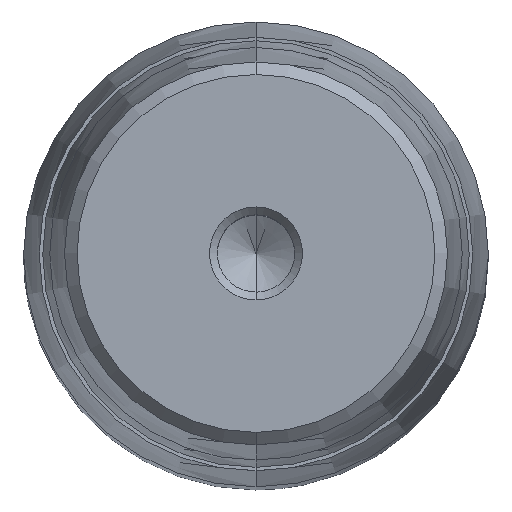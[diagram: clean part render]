
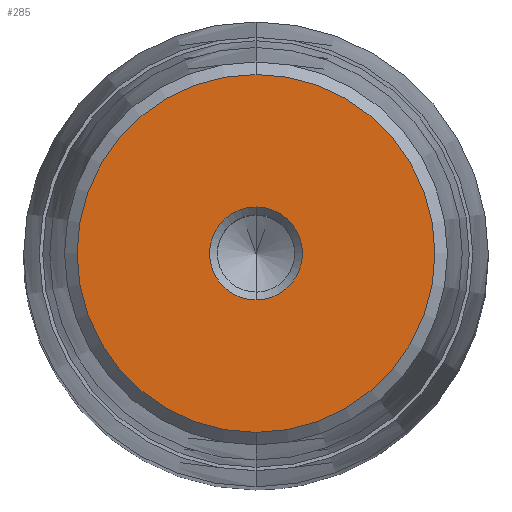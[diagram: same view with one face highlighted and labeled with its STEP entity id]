
A CAD part, top view. The second image highlights one B-rep face of the part: STEP entity #285.
In plain terms, the highlighted planar face has unit normal (0, 0, 1).
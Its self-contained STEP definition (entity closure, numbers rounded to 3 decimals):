
#164=CARTESIAN_POINT('Axis2P3D Location',(0.,0.,48.)) ;
#168=CARTESIAN_POINT('Vertex',(4.,0.,48.)) ;
#170=CARTESIAN_POINT('Vertex',(0.,-4.,48.)) ;
#173=CARTESIAN_POINT('Axis2P3D Location',(0.,0.,48.)) ;
#177=CARTESIAN_POINT('Vertex',(0.,4.,48.)) ;
#228=CARTESIAN_POINT('Axis2P3D Location',(0.,4.,48.)) ;
#233=CARTESIAN_POINT('Axis2P3D Location',(0.,0.,48.)) ;
#237=CARTESIAN_POINT('Vertex',(0.,15.4,48.)) ;
#239=CARTESIAN_POINT('Vertex',(15.4,0.,48.)) ;
#242=CARTESIAN_POINT('Axis2P3D Location',(0.,0.,48.)) ;
#246=CARTESIAN_POINT('Vertex',(-15.4,0.,48.)) ;
#249=CARTESIAN_POINT('Axis2P3D Location',(0.,0.,48.)) ;
#253=CARTESIAN_POINT('Vertex',(0.,-15.4,48.)) ;
#256=CARTESIAN_POINT('Axis2P3D Location',(0.,0.,48.)) ;
#267=CARTESIAN_POINT('Axis2P3D Location',(0.,0.,48.)) ;
#271=CARTESIAN_POINT('Vertex',(-4.,0.,48.)) ;
#274=CARTESIAN_POINT('Axis2P3D Location',(0.,0.,48.)) ;
#165=DIRECTION('Axis2P3D Direction',(0.,0.,1.)) ;
#174=DIRECTION('Axis2P3D Direction',(0.,0.,1.)) ;
#229=DIRECTION('Axis2P3D Direction',(-0.,0.,-1.)) ;
#230=DIRECTION('Axis2P3D XDirection',(0.,1.,0.)) ;
#234=DIRECTION('Axis2P3D Direction',(-0.,0.,-1.)) ;
#243=DIRECTION('Axis2P3D Direction',(-0.,0.,-1.)) ;
#250=DIRECTION('Axis2P3D Direction',(-0.,0.,-1.)) ;
#257=DIRECTION('Axis2P3D Direction',(-0.,0.,-1.)) ;
#268=DIRECTION('Axis2P3D Direction',(-0.,0.,-1.)) ;
#275=DIRECTION('Axis2P3D Direction',(-0.,0.,-1.)) ;
#166=AXIS2_PLACEMENT_3D('Circle Axis2P3D',#164,#165,$) ;
#175=AXIS2_PLACEMENT_3D('Circle Axis2P3D',#173,#174,$) ;
#231=AXIS2_PLACEMENT_3D('Plane Axis2P3D',#228,#229,#230) ;
#235=AXIS2_PLACEMENT_3D('Circle Axis2P3D',#233,#234,$) ;
#244=AXIS2_PLACEMENT_3D('Circle Axis2P3D',#242,#243,$) ;
#251=AXIS2_PLACEMENT_3D('Circle Axis2P3D',#249,#250,$) ;
#258=AXIS2_PLACEMENT_3D('Circle Axis2P3D',#256,#257,$) ;
#269=AXIS2_PLACEMENT_3D('Circle Axis2P3D',#267,#268,$) ;
#276=AXIS2_PLACEMENT_3D('Circle Axis2P3D',#274,#275,$) ;
#262=ORIENTED_EDGE('',*,*,#241,.F.) ;
#263=ORIENTED_EDGE('',*,*,#248,.F.) ;
#264=ORIENTED_EDGE('',*,*,#255,.F.) ;
#265=ORIENTED_EDGE('',*,*,#260,.F.) ;
#280=ORIENTED_EDGE('',*,*,#172,.T.) ;
#281=ORIENTED_EDGE('',*,*,#273,.T.) ;
#282=ORIENTED_EDGE('',*,*,#278,.T.) ;
#283=ORIENTED_EDGE('',*,*,#179,.T.) ;
#284=FACE_BOUND('',#279,.T.) ;
#285=ADVANCED_FACE('722-40x180x213',(#266,#284),#232,.F.) ;
#167=CIRCLE('generated circle',#166,4.) ;
#176=CIRCLE('generated circle',#175,4.) ;
#236=CIRCLE('generated circle',#235,15.4) ;
#245=CIRCLE('generated circle',#244,15.4) ;
#252=CIRCLE('generated circle',#251,15.4) ;
#259=CIRCLE('generated circle',#258,15.4) ;
#270=CIRCLE('generated circle',#269,4.) ;
#277=CIRCLE('generated circle',#276,4.) ;
#172=EDGE_CURVE('',#169,#171,#167,.F.) ;
#179=EDGE_CURVE('',#178,#169,#176,.F.) ;
#241=EDGE_CURVE('',#238,#240,#236,.T.) ;
#248=EDGE_CURVE('',#247,#238,#245,.T.) ;
#255=EDGE_CURVE('',#254,#247,#252,.T.) ;
#260=EDGE_CURVE('',#240,#254,#259,.T.) ;
#273=EDGE_CURVE('',#171,#272,#270,.T.) ;
#278=EDGE_CURVE('',#272,#178,#277,.T.) ;
#261=EDGE_LOOP('',(#262,#263,#264,#265)) ;
#279=EDGE_LOOP('',(#280,#281,#282,#283)) ;
#266=FACE_OUTER_BOUND('',#261,.T.) ;
#232=PLANE('Plane',#231) ;
#169=VERTEX_POINT('',#168) ;
#171=VERTEX_POINT('',#170) ;
#178=VERTEX_POINT('',#177) ;
#238=VERTEX_POINT('',#237) ;
#240=VERTEX_POINT('',#239) ;
#247=VERTEX_POINT('',#246) ;
#254=VERTEX_POINT('',#253) ;
#272=VERTEX_POINT('',#271) ;
